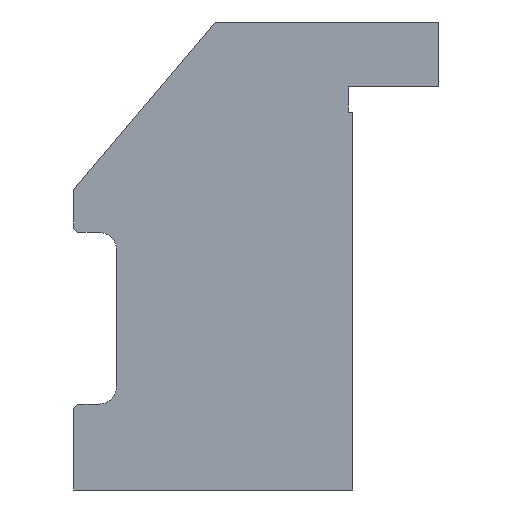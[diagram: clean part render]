
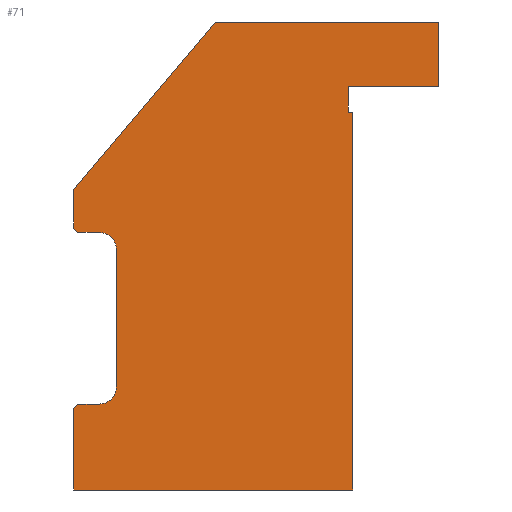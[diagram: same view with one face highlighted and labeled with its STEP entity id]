
A CAD part, front view. The second image highlights one B-rep face of the part: STEP entity #71.
In plain terms, the highlighted planar face has unit normal (0, -1, 0).
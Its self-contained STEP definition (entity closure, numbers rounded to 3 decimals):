
#71=ADVANCED_FACE('',(#350),#352,.F.);
#350=FACE_BOUND('',#351,.T.);
#351=EDGE_LOOP('',(#583,#584,#585,#586,#587,#588,#589,#590,#591,#592,#593,#594,#595,
#596,#597,#598,#599));
#352=PLANE('',#353);
#353=AXIS2_PLACEMENT_3D('',#354,#355,#356);
#354=CARTESIAN_POINT('',(0.,-14.,0.));
#355=DIRECTION('',(0.,1.,0.));
#356=DIRECTION('',(-1.,0.,0.));
#583=ORIENTED_EDGE('',*,*,#709,.T.);
#584=ORIENTED_EDGE('',*,*,#710,.T.);
#585=ORIENTED_EDGE('',*,*,#701,.F.);
#586=ORIENTED_EDGE('',*,*,#711,.F.);
#587=ORIENTED_EDGE('',*,*,#712,.F.);
#588=ORIENTED_EDGE('',*,*,#713,.F.);
#589=ORIENTED_EDGE('',*,*,#714,.F.);
#590=ORIENTED_EDGE('',*,*,#715,.F.);
#591=ORIENTED_EDGE('',*,*,#716,.T.);
#592=ORIENTED_EDGE('',*,*,#717,.T.);
#593=ORIENTED_EDGE('',*,*,#718,.T.);
#594=ORIENTED_EDGE('',*,*,#719,.T.);
#595=ORIENTED_EDGE('',*,*,#720,.T.);
#596=ORIENTED_EDGE('',*,*,#721,.F.);
#597=ORIENTED_EDGE('',*,*,#722,.F.);
#598=ORIENTED_EDGE('',*,*,#723,.F.);
#599=ORIENTED_EDGE('',*,*,#704,.F.);
#701=EDGE_CURVE('',#765,#767,#768,.T.);
#704=EDGE_CURVE('',#771,#773,#774,.T.);
#709=EDGE_CURVE('',#771,#782,#783,.T.);
#710=EDGE_CURVE('',#782,#767,#784,.T.);
#711=EDGE_CURVE('',#785,#765,#786,.T.);
#712=EDGE_CURVE('',#787,#785,#788,.T.);
#713=EDGE_CURVE('',#789,#787,#790,.T.);
#714=EDGE_CURVE('',#791,#789,#792,.T.);
#715=EDGE_CURVE('',#793,#791,#794,.F.);
#716=EDGE_CURVE('',#793,#795,#796,.T.);
#717=EDGE_CURVE('',#795,#797,#798,.T.);
#718=EDGE_CURVE('',#797,#799,#800,.T.);
#719=EDGE_CURVE('',#799,#801,#802,.T.);
#720=EDGE_CURVE('',#801,#803,#804,.T.);
#721=EDGE_CURVE('',#805,#803,#806,.F.);
#722=EDGE_CURVE('',#807,#805,#808,.T.);
#723=EDGE_CURVE('',#773,#807,#809,.T.);
#765=VERTEX_POINT('',#876);
#767=VERTEX_POINT('',#880);
#768=LINE('',#881,#882);
#771=VERTEX_POINT('',#888);
#773=VERTEX_POINT('',#892);
#774=LINE('',#893,#894);
#782=VERTEX_POINT('',#913);
#783=LINE('',#914,#915);
#784=LINE('',#917,#918);
#785=VERTEX_POINT('',#920);
#786=LINE('',#921,#922);
#787=VERTEX_POINT('',#924);
#788=LINE('',#925,#926);
#789=VERTEX_POINT('',#928);
#790=LINE('',#929,#930);
#791=VERTEX_POINT('',#932);
#792=LINE('',#933,#934);
#793=VERTEX_POINT('',#936);
#794=LINE('',#937,#938);
#795=VERTEX_POINT('',#940);
#796=LINE('',#941,#942);
#797=VERTEX_POINT('',#944);
#798=CIRCLE('',#945,4.);
#799=VERTEX_POINT('',#949);
#800=LINE('',#950,#951);
#801=VERTEX_POINT('',#953);
#802=CIRCLE('',#954,4.);
#803=VERTEX_POINT('',#958);
#804=LINE('',#959,#960);
#805=VERTEX_POINT('',#962);
#806=LINE('',#963,#964);
#807=VERTEX_POINT('',#966);
#808=LINE('',#967,#968);
#809=LINE('',#970,#971);
#876=CARTESIAN_POINT('',(24.,-14.,0.));
#880=CARTESIAN_POINT('',(3.,-14.,0.));
#881=CARTESIAN_POINT('',(24.,-14.,0.));
#882=VECTOR('',#883,1.);
#883=DIRECTION('',(-1.,0.,0.));
#888=CARTESIAN_POINT('',(4.,-14.,-6.));
#892=CARTESIAN_POINT('',(4.,-14.,-94.));
#893=CARTESIAN_POINT('',(4.,-14.,-6.));
#894=VECTOR('',#895,1.);
#895=DIRECTION('',(0.,0.,-1.));
#913=CARTESIAN_POINT('',(3.,-14.,-6.));
#914=CARTESIAN_POINT('',(4.,-14.,-6.));
#915=VECTOR('',#916,1.);
#916=DIRECTION('',(-1.,0.,0.));
#917=CARTESIAN_POINT('',(3.,-14.,-6.));
#918=VECTOR('',#919,1.);
#919=DIRECTION('',(0.,0.,1.));
#920=CARTESIAN_POINT('',(24.,-14.,15.));
#921=CARTESIAN_POINT('',(24.,-14.,15.));
#922=VECTOR('',#923,1.);
#923=DIRECTION('',(0.,0.,-1.));
#924=CARTESIAN_POINT('',(-28.,-14.,15.));
#925=CARTESIAN_POINT('',(-28.,-14.,15.));
#926=VECTOR('',#927,1.);
#927=DIRECTION('',(1.,0.,0.));
#928=CARTESIAN_POINT('',(-61.,-14.,-24.));
#929=CARTESIAN_POINT('',(-61.,-14.,-24.));
#930=VECTOR('',#931,1.);
#931=DIRECTION('',(0.646,0.,0.763));
#932=CARTESIAN_POINT('',(-61.,-14.,-33.));
#933=CARTESIAN_POINT('',(-61.,-14.,-33.));
#934=VECTOR('',#935,1.);
#935=DIRECTION('',(0.,0.,1.));
#936=CARTESIAN_POINT('',(-60.,-14.,-34.));
#937=CARTESIAN_POINT('',(-61.,-14.,-33.));
#938=VECTOR('',#939,1.);
#939=DIRECTION('',(0.707,0.,-0.707));
#940=CARTESIAN_POINT('',(-55.,-14.,-34.));
#941=CARTESIAN_POINT('',(-60.,-14.,-34.));
#942=VECTOR('',#943,1.);
#943=DIRECTION('',(1.,0.,0.));
#944=CARTESIAN_POINT('',(-51.,-14.,-38.));
#945=AXIS2_PLACEMENT_3D('',#946,#947,#948);
#946=CARTESIAN_POINT('',(-55.,-14.,-38.));
#947=DIRECTION('',(0.,1.,0.));
#948=DIRECTION('',(0.,0.,1.));
#949=CARTESIAN_POINT('',(-51.,-14.,-70.));
#950=CARTESIAN_POINT('',(-51.,-14.,-38.));
#951=VECTOR('',#952,1.);
#952=DIRECTION('',(0.,0.,-1.));
#953=CARTESIAN_POINT('',(-55.,-14.,-74.));
#954=AXIS2_PLACEMENT_3D('',#955,#956,#957);
#955=CARTESIAN_POINT('',(-55.,-14.,-70.));
#956=DIRECTION('',(0.,1.,0.));
#957=DIRECTION('',(1.,0.,0.));
#958=CARTESIAN_POINT('',(-60.,-14.,-74.));
#959=CARTESIAN_POINT('',(-55.,-14.,-74.));
#960=VECTOR('',#961,1.);
#961=DIRECTION('',(-1.,0.,0.));
#962=CARTESIAN_POINT('',(-61.,-14.,-75.));
#963=CARTESIAN_POINT('',(-60.,-14.,-74.));
#964=VECTOR('',#965,1.);
#965=DIRECTION('',(-0.707,0.,-0.707));
#966=CARTESIAN_POINT('',(-61.,-14.,-94.));
#967=CARTESIAN_POINT('',(-61.,-14.,-94.));
#968=VECTOR('',#969,1.);
#969=DIRECTION('',(0.,0.,1.));
#970=CARTESIAN_POINT('',(4.,-14.,-94.));
#971=VECTOR('',#972,1.);
#972=DIRECTION('',(-1.,0.,0.));
